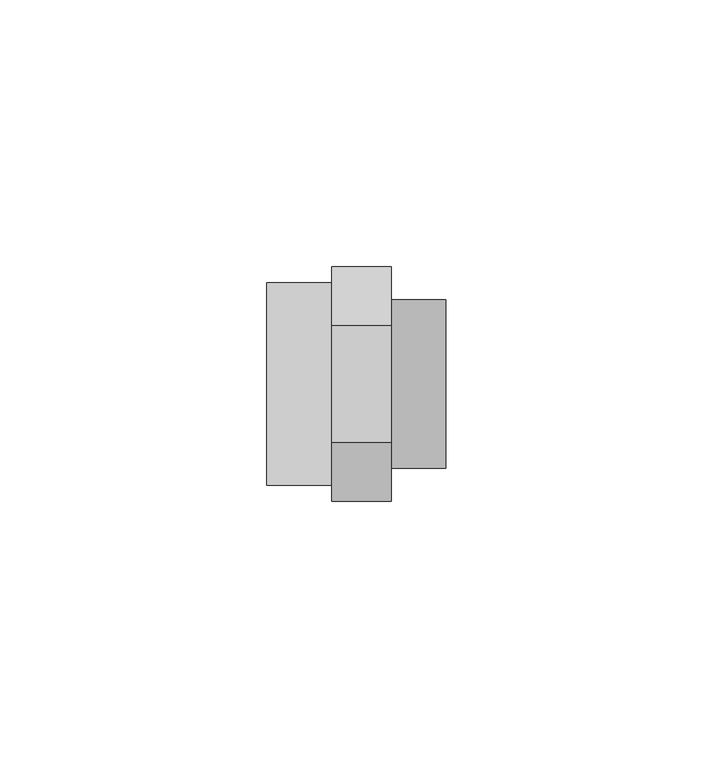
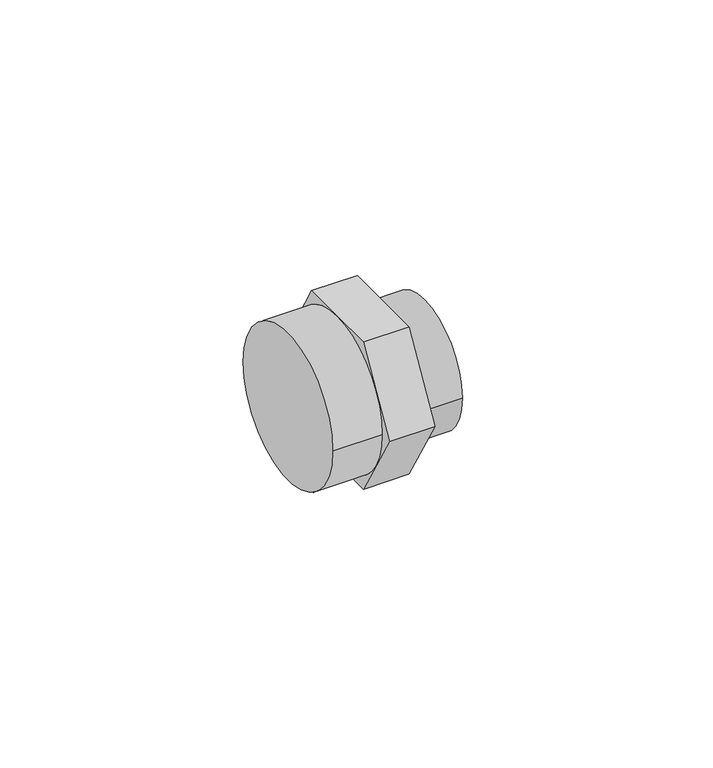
"""IFC4 building model written with IfcOpenShell, lengths in millimetres: pipe fitting geometry, 01011007 : Uniao de redução F/F."""

from ifc_helpers import new_model, si_unit, frame, origin, place, context, project, spatial, circle_curve, source, transform, mapped, element, save
from ifc_brep_helpers import plane_surface, cylinder_surface, advanced_brep


def pipe_fitting_70dfa140(model_context):
    return source(origin(), model_context, "Body", "AdvancedBrep", [
        advanced_brep(
        [(23.3333333, -10.9696551, 19.0), (23.3333333, -21.9393102, 0.0), (23.3333333, -10.9696551, -19.0), (23.3333333, 10.9696551, -19.0), (23.3333333, 21.9393102, 0.0), (23.3333333, 10.9696551, 19.0), (23.3333333, -15.825, 0.0), (23.3333333, 15.825, 0.0), (12.1666667, -10.9696551, 19.0), (12.1666667, 0.0, 19.0), (12.1666667, -16.4544827, 9.5), (12.1666667, 10.9696551, 19.0), (12.1666667, 16.4544827, 9.5), (12.1666667, 21.9393102, 0.0), (12.1666667, 16.4544827, -9.5), (12.1666667, 19.0, 0.0), (12.1666667, 10.9696551, -19.0), (12.1666667, 0.0, -19.0), (12.1666667, -10.9696551, -19.0), (12.1666667, -16.4544827, -9.5), (12.1666667, -21.9393102, 0.0), (12.1666667, -19.0, 0.0), (33.5, -15.825, 0.0), (33.5, 15.825, 0.0), (0.0, 19.0, 0.0), (0.0, -19.0, 0.0)],
        [
            (0, 1),
            (1, 2),
            (2, 3),
            (3, 4),
            (4, 5),
            (5, 0),
            (6, 7, circle_curve(frame((23.3333333, 0.0, 0.0), z_axis=(-1.0, 0.0, 0.0), x_axis=(0.0, 1.0, 0.0)), 15.825)),
            (7, 6, circle_curve(frame((23.3333333, 0.0, 0.0), z_axis=(-1.0, 0.0, 0.0), x_axis=(0.0, 1.0, 0.0)), 15.825)),
            (8, 9),
            (9, 10, circle_curve(frame((12.1666667, 0.0, 0.0), z_axis=(1.0, 0.0, 0.0), x_axis=(0.0, -1.0, 0.0)), 19.0)),
            (10, 8),
            (9, 11),
            (11, 12),
            (12, 9, circle_curve(frame((12.1666667, 0.0, 0.0), z_axis=(1.0, 0.0, 0.0), x_axis=(0.0, -1.0, 0.0)), 19.0)),
            (12, 13),
            (13, 14),
            (14, 15, circle_curve(frame((12.1666667, 0.0, 0.0), z_axis=(1.0, 0.0, 0.0), x_axis=(0.0, -1.0, 0.0)), 19.0)),
            (15, 12, circle_curve(frame((12.1666667, 0.0, 0.0), z_axis=(1.0, 0.0, 0.0), x_axis=(0.0, -1.0, 0.0)), 19.0)),
            (14, 16),
            (16, 17),
            (17, 14, circle_curve(frame((12.1666667, 0.0, 0.0), z_axis=(1.0, 0.0, 0.0), x_axis=(0.0, -1.0, 0.0)), 19.0)),
            (17, 18),
            (18, 19),
            (19, 17, circle_curve(frame((12.1666667, 0.0, 0.0), z_axis=(1.0, 0.0, 0.0), x_axis=(0.0, -1.0, 0.0)), 19.0)),
            (19, 20),
            (20, 10),
            (10, 21, circle_curve(frame((12.1666667, 0.0, 0.0), z_axis=(1.0, 0.0, 0.0), x_axis=(0.0, -1.0, 0.0)), 19.0)),
            (21, 19, circle_curve(frame((12.1666667, 0.0, 0.0), z_axis=(1.0, 0.0, 0.0), x_axis=(0.0, -1.0, 0.0)), 19.0)),
            (0, 8),
            (20, 1),
            (18, 2),
            (16, 3),
            (13, 4),
            (11, 5),
            (22, 23, circle_curve(frame((33.5, 0.0, 0.0), z_axis=(1.0, 0.0, 0.0), x_axis=(0.0, 1.0, 0.0)), 15.825)),
            (23, 22, circle_curve(frame((33.5, 0.0, 0.0), z_axis=(1.0, 0.0, 0.0), x_axis=(0.0, 1.0, 0.0)), 15.825)),
            (23, 7),
            (6, 22),
            (24, 25, circle_curve(frame((0.0, 0.0, 0.0), z_axis=(-1.0, 0.0, 0.0), x_axis=(0.0, -1.0, 0.0)), 19.0)),
            (25, 24, circle_curve(frame((0.0, 0.0, 0.0), z_axis=(-1.0, 0.0, 0.0), x_axis=(0.0, -1.0, 0.0)), 19.0)),
            (25, 21),
            (15, 24),
        ],
        [
            plane_surface(frame((23.3333333, -10.9696551, 19.0), z_axis=(1.0, 0.0, 0.0), x_axis=(0.0, -0.500000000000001, -0.8660254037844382))),
            plane_surface(frame((12.1666667, -10.9696551, 19.0), z_axis=(-1.0, 0.0, 0.0), x_axis=(0.0, 0.500000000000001, 0.8660254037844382))),
            plane_surface(frame((23.3333333, -10.9696551, 19.0), z_axis=(0.0, -0.8660254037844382, 0.500000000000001), x_axis=(-1.0, 0.0, 0.0))),
            plane_surface(frame((23.3333333, -21.9393102, 0.0), z_axis=(0.0, -0.866025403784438, -0.500000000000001), x_axis=(-1.0, 0.0, 0.0))),
            plane_surface(frame((23.3333333, -10.9696551, -19.0), z_axis=(0.0, 0.0, -1.0), x_axis=(-1.0, 0.0, 0.0))),
            plane_surface(frame((23.3333333, 10.9696551, -19.0), z_axis=(0.0, 0.8660254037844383, -0.5000000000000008), x_axis=(-1.0, 0.0, 0.0))),
            plane_surface(frame((23.3333333, 21.9393102, 0.0), z_axis=(0.0, 0.8660254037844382, 0.500000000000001), x_axis=(-1.0, 0.0, 0.0))),
            plane_surface(frame((23.3333333, 10.9696551, 19.0), z_axis=(0.0, 0.0, 1.0), x_axis=(-1.0, 0.0, 0.0))),
            plane_surface(frame((33.5, 0.0, 0.0), z_axis=(1.0, 0.0, 0.0), x_axis=(0.0, 0.0, 1.0))),
            cylinder_surface(frame((20.5, 0.0, 0.0), z_axis=(-1.0, 0.0, 0.0), x_axis=(0.0, 1.0, 0.0)), 15.825),
            plane_surface(frame((0.0, 0.0, 0.0), z_axis=(-1.0, 0.0, 0.0), x_axis=(0.0, 0.0, 1.0))),
            cylinder_surface(frame((15.0, 0.0, 0.0), z_axis=(1.0, 0.0, 0.0), x_axis=(0.0, -1.0, 0.0)), 19.0),
        ],
        [
            (0, [[1, 2, 3, 4, 5, 6], [7, 8]]),
            (1, [[9, 10, 11]]),
            (1, [[12, 13, 14]]),
            (1, [[15, 16, 17, 18]]),
            (1, [[19, 20, 21]]),
            (1, [[22, 23, 24]]),
            (1, [[25, 26, 27, 28]]),
            (2, [[-1, 29, -11, -26, 30]]),
            (3, [[-2, -30, -25, -23, 31]]),
            (4, [[-3, -31, -22, -20, 32]]),
            (5, [[-4, -32, -19, -16, 33]]),
            (6, [[-5, -33, -15, -13, 34]]),
            (7, [[-6, -34, -12, -9, -29]]),
            (8, [[35, 36]]),
            (9, [[-36, 37, -7, 38]]),
            (9, [[-35, -38, -8, -37]]),
            (10, [[39, 40]]),
            (11, [[-40, 41, -27, -10, -14, -18, 42]]),
            (11, [[-39, -42, -17, -21, -24, -28, -41]]),
        ],
    ),
    ])


if __name__ == "__main__":
    model = new_model("IFC4")
    model_context = context("Model", 3, world=origin())
    ifc_project = project(units=[si_unit("LENGTHUNIT", "METRE", prefix="MILLI")], contexts=[model_context])
    site = spatial("IfcSite", under=ifc_project)
    building = spatial("IfcBuilding", under=site)
    placement = place(None, origin())
    pipe_fitting_shape = pipe_fitting_70dfa140(model_context)
    element("IfcPipeFitting", 1, ObjectType="01011007 : Uniao de redução F/F", at=placement, inside=building, context=model_context, shape_type="MappedRepresentation", body=[
        mapped(pipe_fitting_shape, transform((0.0, 0.0, 0.0), x_axis=(1.0, 0.0, 0.0), y_axis=(0.0, 1.0, 0.0), z_axis=(0.0, 0.0, 1.0))),
    ])
    save(model, "model.ifc")
